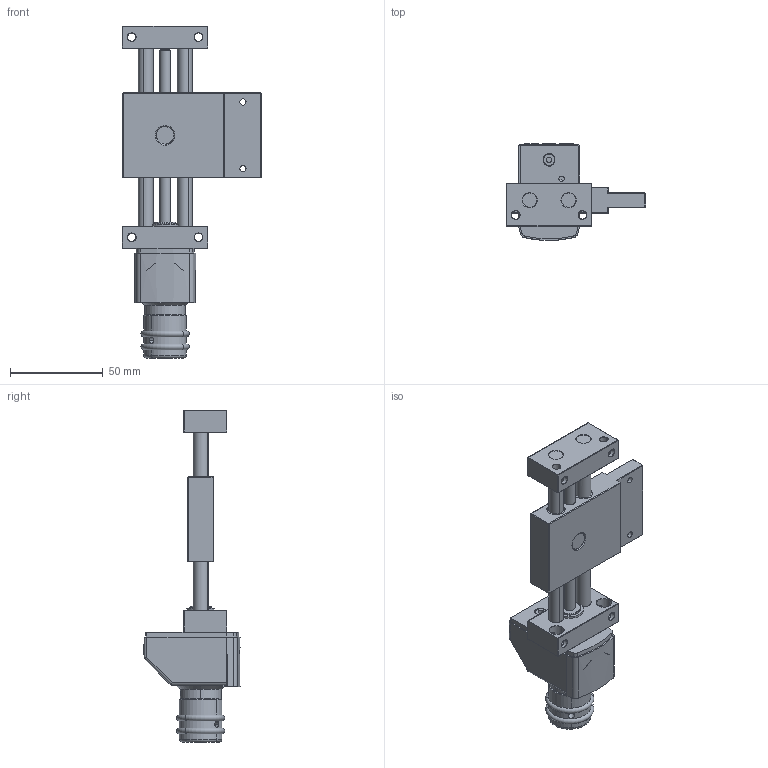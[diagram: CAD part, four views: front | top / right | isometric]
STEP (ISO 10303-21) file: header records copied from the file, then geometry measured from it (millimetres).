
FILE_DESCRIPTION (( 'STEP AP203' ), '1' );
FILE_NAME ('KT4808-KL-PAE-Kreuztisch.STEP', '2016-01-15T17:01:20', ( '' ), ( '' ), 'SwSTEP 2.0', 'SolidWorks 2014', '' );
FILE_SCHEMA (( 'CONFIG_CONTROL_DESIGN' ));
Length unit declared in the file: millimetre
Products named in the file (4): PT4808-000-01-Festteil-PA(E)_n_Standard; PAE0812-DT-000-Elektronischer-Positionsanzeiger-Komplett_n_Standard; KT08-000-02-K-Schlitten-komplett; KT4808-KL-PAE-Kreuztisch
Assembly tree (3 placements, depth 2):
  KT4808-KL-PAE-Kreuztisch
    PT4808-000-01-Festteil-PA(E)_n_Standard
    PAE0812-DT-000-Elektronischer-Positionsanzeiger-Komplett_n_Standard
    KT08-000-02-K-Schlitten-komplett
Bounding box: 75 x 51.97 x 179.13 mm (x, y, z)
Volume: 121659.8 mm3; surface area: 46436.6 mm2
Topology: 3 solids, 8 shells, 886 faces, 2203 edges, 1409 vertices
Faces by surface type: plane 472, cylinder 251, cone 153, torus 6, sphere 4
Entity records: 27653 total; most frequent: CARTESIAN_POINT 5573, DIRECTION 4635, ORIENTED_EDGE 4390, EDGE_CURVE 2195, AXIS2_PLACEMENT_3D 1635, VERTEX_POINT 1409, LINE 1365, VECTOR 1365
